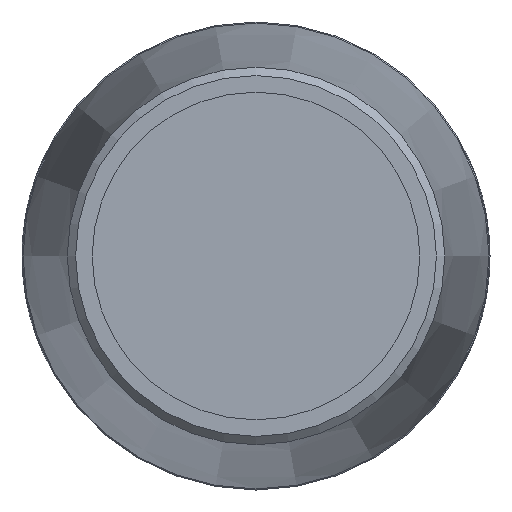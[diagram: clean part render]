
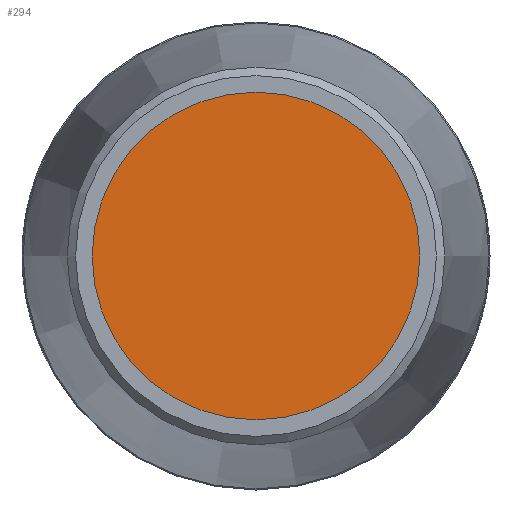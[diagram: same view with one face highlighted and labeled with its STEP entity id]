
A CAD part, left-side view. The second image highlights one B-rep face of the part: STEP entity #294.
In plain terms, the highlighted planar face has unit normal (-1, 0, 0).
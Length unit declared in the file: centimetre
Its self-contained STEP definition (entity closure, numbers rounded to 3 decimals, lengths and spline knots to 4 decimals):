
#48=PLANE('',#329);
#77=FACE_OUTER_BOUND('',#108,.T.);
#108=EDGE_LOOP('',(#214));
#134=CIRCLE('',#328,1.05);
#148=VERTEX_POINT('',#455);
#174=EDGE_CURVE('',#148,#148,#134,.T.);
#214=ORIENTED_EDGE('',*,*,#174,.T.);
#294=ADVANCED_FACE('',(#77),#48,.T.);
#328=AXIS2_PLACEMENT_3D('',#456,#387,#388);
#329=AXIS2_PLACEMENT_3D('',#457,#389,#390);
#387=DIRECTION('center_axis',(-1.,0.,0.));
#388=DIRECTION('ref_axis',(0.,0.,1.));
#389=DIRECTION('center_axis',(-1.,0.,0.));
#390=DIRECTION('ref_axis',(0.,0.,1.));
#455=CARTESIAN_POINT('',(-7.45,-1.05,0.));
#456=CARTESIAN_POINT('Origin',(-7.45,0.,0.));
#457=CARTESIAN_POINT('Origin',(-7.45,0.,0.));
